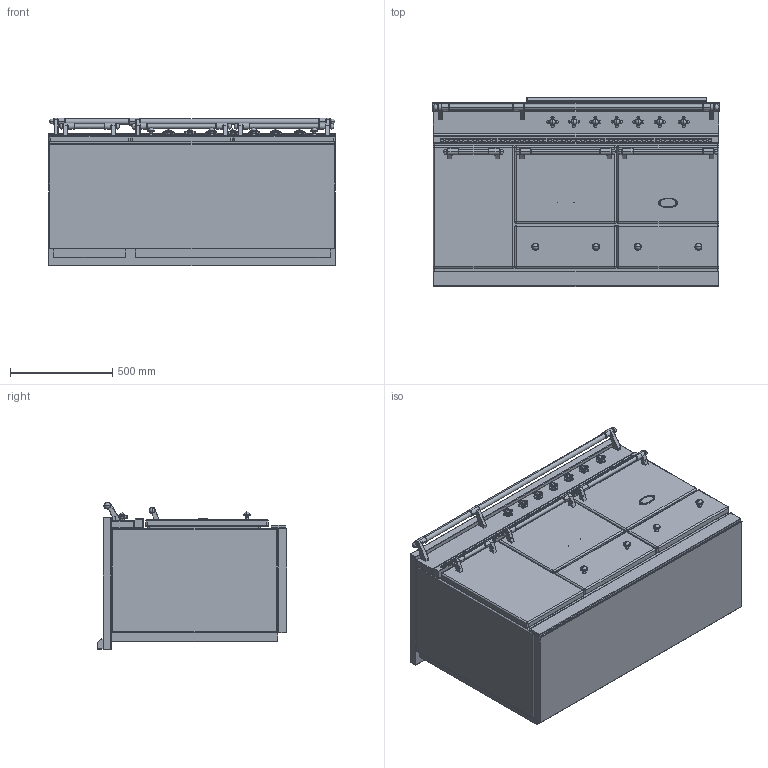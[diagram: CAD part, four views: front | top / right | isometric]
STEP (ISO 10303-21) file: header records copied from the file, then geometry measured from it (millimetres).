
FILE_DESCRIPTION((''),'2;1');
FILE_NAME('LVI1452G_ASM','2014-07-29T',('r.avril'),(''),'PRO/ENGINEER BY PARAMETRIC TECHNOLOGY CORPORATION, 2014090','PRO/ENGINEER BY PARAMETRIC TECHNOLOGY CORPORATION, 2014090','');
FILE_SCHEMA(('AP203_CONFIGURATION_CONTROLLED_3D_DESIGN_OF_MECHANICAL_PARTS_AND_ASSEMBLIES_MIM_LF { 1 0 10303 403 2 1 2 }'));
Products named in the file (18): BASE_EXPORT_CLUNY_1400G; 65650003; 65650004; 6531940; 6531941; 6538399; 1931942; 6518450; 6531942_ASM; 6531943; 65049009; 65650001; 65650007; BASE_EXPORT_CLUNY_1400G_ASM; TABLE_1400G_INDUCTION; 65052013; TABLE_1400G_INDUCTION_ASM; LVI1452G_ASM
Assembly tree (30 placements, depth 4):
  LVI1452G_ASM
    BASE_EXPORT_CLUNY_1400G_ASM
      BASE_EXPORT_CLUNY_1400G
      65650003
      65650004
      6531940  x3
      6531941  x3
      6531942_ASM  x7
        6538399
        1931942
        6518450
      6531943  x4
      65049009
      65650001
      65650007
    TABLE_1400G_INDUCTION_ASM
      TABLE_1400G_INDUCTION
      65052013
Bounding box: 1405 x 930.5 x 724 mm (x, y, z)
Volume: 735904984.5 mm3; surface area: 11370278.4 mm2
Topology: 40 solids, 53 shells, 4013 faces, 10986 edges, 7380 vertices
Faces by surface type: plane 2145, cylinder 1108, torus 224, extrusion 198, sphere 190, cone 76, bspline 56, revolution 16
Entity records: 84156 total; most frequent: CARTESIAN_POINT 15307, DIRECTION 11282, ORIENTED_EDGE 9586, EDGE_CURVE 4805, AXIS2_PLACEMENT_3D 3852, VECTOR 3516, LINE 3486, VERTEX_POINT 3056
